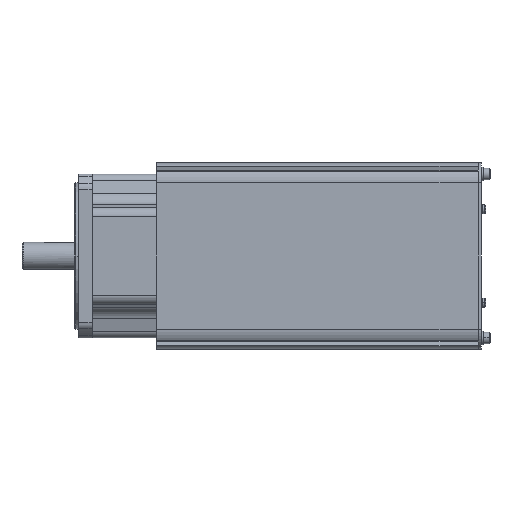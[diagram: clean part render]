
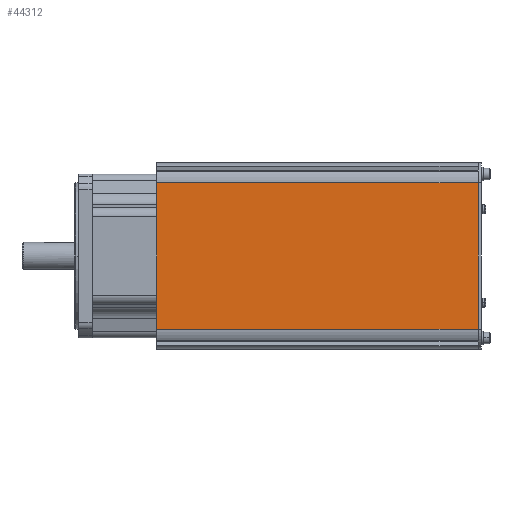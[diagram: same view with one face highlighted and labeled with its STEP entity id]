
A CAD part, front view. The second image highlights one B-rep face of the part: STEP entity #44312.
In plain terms, the highlighted planar face has unit normal (0, -1, 0).
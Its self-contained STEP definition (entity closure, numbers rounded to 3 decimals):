
#38781=DIRECTION('',(0.,0.,-1.));
#38782=VECTOR('',#38781,130.);
#38783=CARTESIAN_POINT('',(119.3,-82.5,65.));
#38784=LINE('',#38783,#38782);
#40400=DIRECTION('',(0.,0.,-1.));
#40401=VECTOR('',#40400,130.);
#40402=CARTESIAN_POINT('',(403.3,-82.5,65.));
#40403=LINE('',#40402,#40401);
#40404=DIRECTION('',(-1.,0.,0.));
#40405=VECTOR('',#40404,284.);
#40406=CARTESIAN_POINT('',(403.3,-82.5,65.));
#40407=LINE('',#40406,#40405);
#40421=DIRECTION('',(-1.,0.,0.));
#40422=VECTOR('',#40421,284.);
#40423=CARTESIAN_POINT('',(403.3,-82.5,-65.));
#40424=LINE('',#40423,#40422);
#40569=CARTESIAN_POINT('',(403.3,-82.5,65.));
#40570=CARTESIAN_POINT('',(403.3,-82.5,-65.));
#40571=VERTEX_POINT('',#40569);
#40572=VERTEX_POINT('',#40570);
#40573=CARTESIAN_POINT('',(119.3,-82.5,65.));
#40574=CARTESIAN_POINT('',(119.3,-82.5,-65.));
#40575=VERTEX_POINT('',#40573);
#40576=VERTEX_POINT('',#40574);
#44299=CARTESIAN_POINT('',(403.3,-82.5,65.));
#44300=DIRECTION('',(0.,-1.,0.));
#44301=DIRECTION('',(0.,0.,-1.));
#44302=AXIS2_PLACEMENT_3D('',#44299,#44300,#44301);
#44303=PLANE('',#44302);
#44305=ORIENTED_EDGE('',*,*,#44304,.T.);
#44307=ORIENTED_EDGE('',*,*,#44306,.T.);
#44308=ORIENTED_EDGE('',*,*,#41765,.F.);
#44309=ORIENTED_EDGE('',*,*,#44171,.F.);
#44310=EDGE_LOOP('',(#44305,#44307,#44308,#44309));
#44311=FACE_OUTER_BOUND('',#44310,.F.);
#44312=ADVANCED_FACE('',(#44311),#44303,.T.);
#41765=EDGE_CURVE('',#40575,#40576,#38784,.T.);
#44171=EDGE_CURVE('',#40571,#40575,#40407,.T.);
#44304=EDGE_CURVE('',#40571,#40572,#40403,.T.);
#44306=EDGE_CURVE('',#40572,#40576,#40424,.T.);
